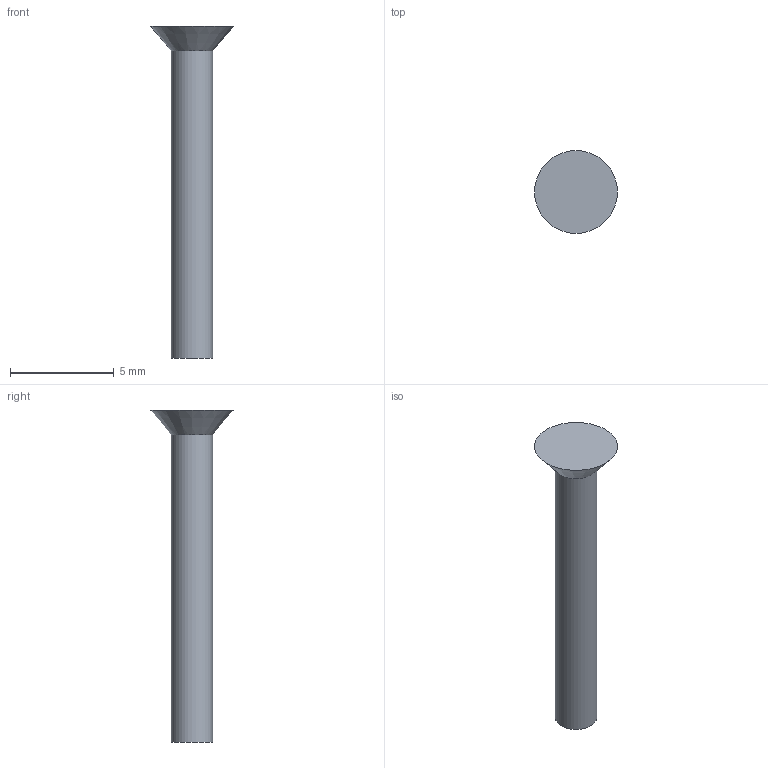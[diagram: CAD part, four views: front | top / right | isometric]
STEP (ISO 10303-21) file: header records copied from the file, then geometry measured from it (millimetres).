
FILE_DESCRIPTION(('Open CASCADE Model'),'2;1');
FILE_NAME('Open CASCADE Shape Model','2026-09-10T00:40:49',('Author'),( 'Open CASCADE'),'Open CASCADE STEP processor 7.8','Open CASCADE 7.8' ,'Unknown');
FILE_SCHEMA(('AUTOMOTIVE_DESIGN { 1 0 10303 214 1 1 1 1 }'));
Length unit declared in the file: millimetre
Products named in the file (1): Open CASCADE STEP translator 7.8 12
Bounding box: 4 x 4 x 16 mm (x, y, z)
Volume: 55.3 mm3; surface area: 123.4 mm2
Topology: 1 solids, 1 shells, 4 faces, 5 edges, 3 vertices
Faces by surface type: plane 2, cylinder 1, cone 1
Full cylindrical faces by diameter (mm): 2 x1
Entity records: 158 total; most frequent: DIRECTION 27, CARTESIAN_POINT 24, ORIENTED_EDGE 10, PCURVE 10, DEFINITIONAL_REPRESENTATION 10, LINE 9, VECTOR 9, AXIS2_PLACEMENT_3D 8
